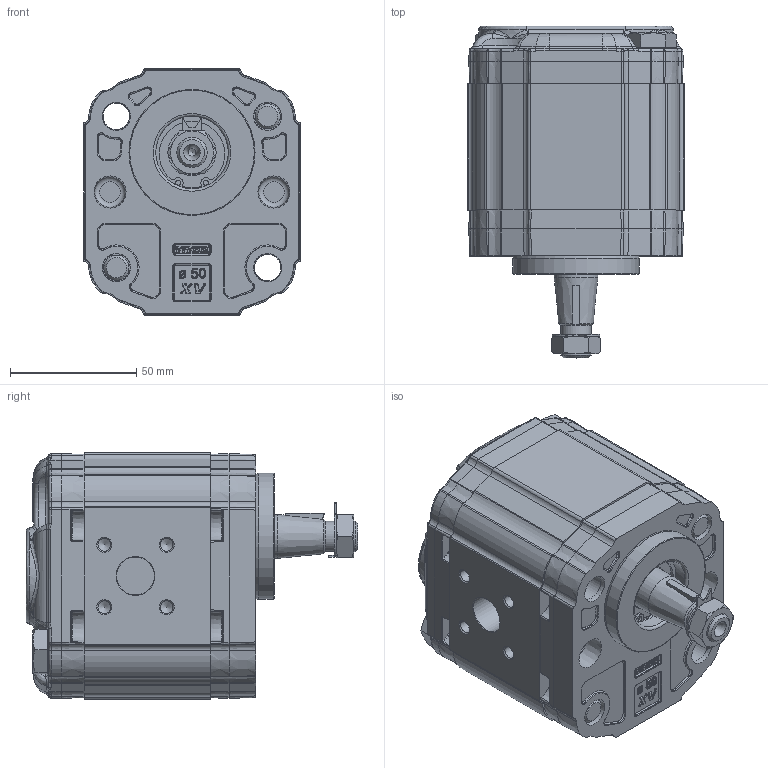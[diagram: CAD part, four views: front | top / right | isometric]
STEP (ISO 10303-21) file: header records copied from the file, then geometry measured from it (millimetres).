
FILE_DESCRIPTION(/* description */ ('Unknown'),/* implementation_level */ '2;1');
FILE_NAME(/* name */ 'X2U4322FSRA',/* time_stamp */ '2026-06-03T18:08:32+02:00',/* author */ ('Unknown'),/* organization */ ('Unknown'),/* preprocessor_version */ 'ST-DEVELOPER v16.7',/* originating_system */ 'Solid Edge',/* authorisation */ 'Unknown');
FILE_SCHEMA (('AUTOMOTIVE_DESIGN {1 0 10303 214 3 1 1}'));
Products named in the file (5): X2U4322FSRA; X2U22; 2F; X2SRH50; XU213-A
Assembly tree (4 placements, depth 2):
  X2U4322FSRA
    X2U22
    2F
    X2SRH50
    XU213-A
Bounding box: 86 x 131.65 x 98 mm (x, y, z)
Volume: 634637.3 mm3; surface area: 101227.6 mm2
Topology: 4 solids, 8 shells, 2657 faces, 6498 edges, 3921 vertices
Faces by surface type: cylinder 752, bspline 670, plane 652, cone 300, torus 219, sphere 64
Full cylindrical faces by diameter (mm): 2 x2, 5 x8, 10 x6, 10.5 x8, 11 x2, 12 x2, 12.5 x1, 15 x1, 16 x2, 17.42 x1, 18 x1, 20 x1, 20.595 x1, 23.332 x1, 25 x1, 25.834 x1, 28.5 x1, 28.56 x1, 28.57 x1, 28.8 x1, 30.5 x1, 50 x1
Entity records: 124050 total; most frequent: CARTESIAN_POINT 48986, ORIENTED_EDGE 12470, DIRECTION 10246, EDGE_CURVE 6235, AXIS2_PLACEMENT_3D 4051, VERTEX_POINT 3856, FACE_BOUND 2947, EDGE_LOOP 2937
